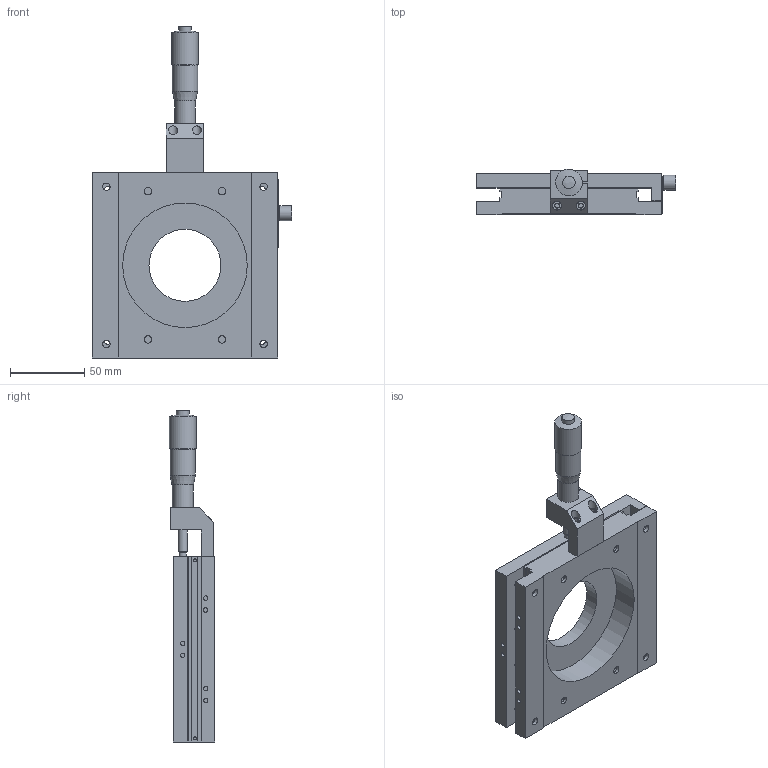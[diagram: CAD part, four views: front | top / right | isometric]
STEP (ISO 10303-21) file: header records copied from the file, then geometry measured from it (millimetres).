
FILE_DESCRIPTION (( 'STEP AP203' ), '1' );
FILE_NAME ('M1-127-C1_LAYOUT(20160422).STEP', '2016-04-22T05:55:09', ( '' ), ( '' ), 'SwSTEP 2.0', 'SolidWorks 2015', '' );
FILE_SCHEMA (( 'CONFIG_CONTROL_DESIGN' ));
Length unit declared in the file: millimetre
Products named in the file (8): BASE PLATE; CARRIAGE PLATE; BRACKET; CLAMP BOLT; MICRO HEAD BLOCK-C; MICRO HEAD; MA-005-004; M1-127-C1_LAYOUT(20160422)
Assembly tree (7 placements, depth 2):
  M1-127-C1_LAYOUT(20160422)
    BASE PLATE
    CARRIAGE PLATE
    BRACKET
    CLAMP BOLT
    MICRO HEAD BLOCK-C
    MICRO HEAD
    MA-005-004
Bounding box: 134.5 x 30.5 x 223.87 mm (x, y, z)
Volume: 296873.6 mm3; surface area: 87900.7 mm2
Topology: 7 solids, 7 shells, 234 faces, 472 edges, 315 vertices
Faces by surface type: plane 127, cylinder 101, cone 4, sphere 2
Full cylindrical faces by diameter (mm): 2 x4, 3 x26, 3.4 x4, 3.5 x1, 4 x13, 4.5 x8, 5 x9, 6 x3, 6.35 x1, 8 x16, 8.5 x1, 9 x1, 10 x2, 14 x1, 17 x1, 18 x1, 48.5 x1, 84 x1
Entity records: 6581 total; most frequent: DIRECTION 1055, CARTESIAN_POINT 931, ORIENTED_EDGE 734, EDGE_LOOP 451, AXIS2_PLACEMENT_3D 446, EDGE_CURVE 367, FACE_OUTER_BOUND 328, VERTEX_POINT 308
